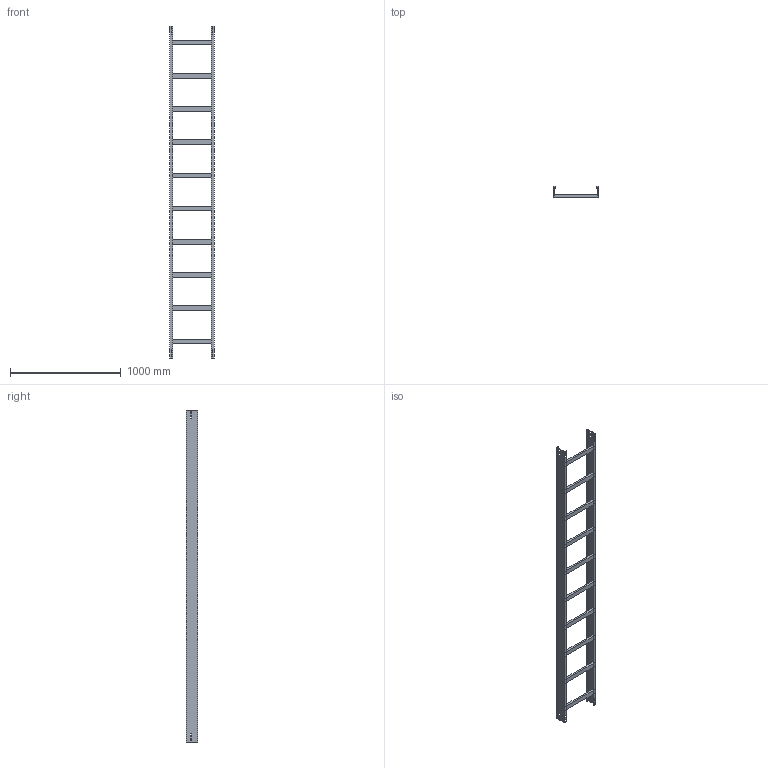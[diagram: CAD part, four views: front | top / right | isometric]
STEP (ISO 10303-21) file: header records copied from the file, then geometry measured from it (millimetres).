
FILE_DESCRIPTION (( 'STEP AP214' ), '1' );
FILE_NAME ('01B3D400.step', '2025-02-21T15:59:43', ( '' ), ( '' ), 'SwSTEP 2.0', 'SolidWorks 2023', '' );
FILE_SCHEMA (( 'AUTOMOTIVE_DESIGN' ));
Length unit declared in the file: millimetre
Products named in the file (3): TRAVERSINO_400; LONGH.H100; 01B3D400
Assembly tree (12 placements, depth 2):
  01B3D400
    LONGH.H100  x2
    TRAVERSINO_400  x10
Bounding box: 400 x 100 x 3000 mm (x, y, z)
Volume: 5854672 mm3; surface area: 2210056 mm2
Topology: 12 solids, 12 shells, 144 faces, 360 edges, 240 vertices
Faces by surface type: plane 144
Entity records: 1696 total; most frequent: CARTESIAN_POINT 283, ORIENTED_EDGE 264, DIRECTION 258, LINE 132, EDGE_CURVE 132, VECTOR 132, VERTEX_POINT 88, EDGE_LOOP 64
